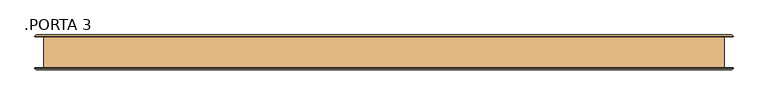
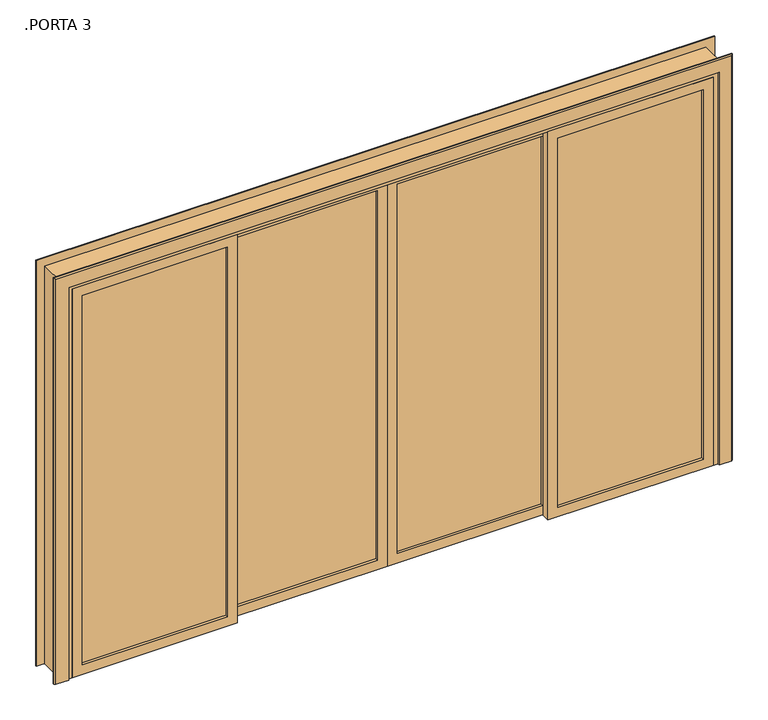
"""IFC4 building model written with IfcOpenShell, lengths in millimetres: door geometry, Porta envidraçada de correr quádrupla com revestimento : .PORTA 3."""

from ifc_helpers import new_model, si_unit, point, frame, frame_2d, origin, place, context, project, spatial, polyline, circle_curve, trimmed, segment, composite_curve, outline, extrude, faceted_brep, source, transform, mapped, element, save


def porta_3_39596a4f(model_context):
    return source(origin(), model_context, "Body", "SolidModel", [
        extrude(outline(composite_curve([segment(trimmed(circle_curve(frame_2d((990.0, 15.0)), 10.0), [point((1000.0, 15.0))], [point((990.0, 5.0))], False, "CARTESIAN"), True, "CONTINUOUS"), segment(polyline([(990.0, 5.0), (810.0, 5.0)]), True, "CONTINUOUS"), segment(trimmed(circle_curve(frame_2d((810.0, 15.0)), 10.0), [point((810.0, 5.0))], [point((800.0, 15.0))], False, "CARTESIAN"), True, "CONTINUOUS"), segment(polyline([(800.0, 15.0), (800.0, 35.0)]), True, "CONTINUOUS"), segment(trimmed(circle_curve(frame_2d((810.0, 35.0)), 10.0), [point((800.0, 35.0))], [point((810.0, 45.0))], False, "CARTESIAN"), True, "CONTINUOUS"), segment(polyline([(810.0, 45.0), (990.0, 45.0)]), True, "CONTINUOUS"), segment(trimmed(circle_curve(frame_2d((990.0, 35.0)), 10.0), [point((990.0, 45.0))], [point((1000.0, 35.0))], False, "CARTESIAN"), True, "CONTINUOUS"), segment(polyline([(1000.0, 35.0), (1000.0, 15.0)]), True, "CONTINUOUS")], self_intersect=False), holes=[composite_curve([segment(trimmed(circle_curve(frame_2d((985.0, 25.0)), 5.0), [point((985.0, 20.0))], [point((985.0, 30.0))], True, "CARTESIAN"), True, "CONTINUOUS"), segment(trimmed(circle_curve(frame_2d((985.0, 25.0)), 5.0), [point((985.0, 30.0))], [point((985.0, 20.0))], True, "CARTESIAN"), True, "CONTINUOUS")], self_intersect=False), composite_curve([segment(trimmed(circle_curve(frame_2d((815.0, 25.0)), 5.0), [point((815.0, 20.0))], [point((815.0, 30.0))], True, "CARTESIAN"), True, "CONTINUOUS"), segment(trimmed(circle_curve(frame_2d((815.0, 25.0)), 5.0), [point((815.0, 30.0))], [point((815.0, 20.0))], True, "CARTESIAN"), True, "CONTINUOUS")], self_intersect=False), composite_curve([segment(polyline([(960.0, 15.0), (960.0, 35.0)]), True, "CONTINUOUS"), segment(trimmed(circle_curve(frame_2d((955.0, 35.0)), 5.0), [point((960.0, 35.0))], [point((955.0, 40.0))], True, "CARTESIAN"), True, "CONTINUOUS"), segment(polyline([(955.0, 40.0), (845.0, 40.0)]), True, "CONTINUOUS"), segment(trimmed(circle_curve(frame_2d((845.0, 35.0)), 5.0), [point((845.0, 40.0))], [point((840.0, 35.0))], True, "CARTESIAN"), True, "CONTINUOUS"), segment(polyline([(840.0, 35.0), (840.0, 15.0)]), True, "CONTINUOUS"), segment(trimmed(circle_curve(frame_2d((845.0, 15.0)), 5.0), [point((840.0, 15.0))], [point((845.0, 10.0))], True, "CARTESIAN"), True, "CONTINUOUS"), segment(polyline([(845.0, 10.0), (955.0, 10.0)]), True, "CONTINUOUS"), segment(trimmed(circle_curve(frame_2d((955.0, 15.0)), 5.0), [point((955.0, 10.0))], [point((960.0, 15.0))], True, "CARTESIAN"), True, "CONTINUOUS")], self_intersect=False)]), frame((0.0, 10.0, 0.0), z_axis=(0.0, 1.0, 0.0), x_axis=(0.0, 0.0, 1.0)), (0.0, 0.0, 1.0), 3.0),
        extrude(outline(composite_curve([segment(trimmed(circle_curve(frame_2d((990.0, -35.0)), 10.0), [point((1000.0, -35.0))], [point((990.0, -45.0))], False, "CARTESIAN"), True, "CONTINUOUS"), segment(polyline([(990.0, -45.0), (810.0, -45.0)]), True, "CONTINUOUS"), segment(trimmed(circle_curve(frame_2d((810.0, -35.0)), 10.0), [point((810.0, -45.0))], [point((800.0, -35.0))], False, "CARTESIAN"), True, "CONTINUOUS"), segment(polyline([(800.0, -35.0), (800.0, -15.0)]), True, "CONTINUOUS"), segment(trimmed(circle_curve(frame_2d((810.0, -15.0)), 10.0), [point((800.0, -15.0))], [point((810.0, -5.0))], False, "CARTESIAN"), True, "CONTINUOUS"), segment(polyline([(810.0, -5.0), (990.0, -5.0)]), True, "CONTINUOUS"), segment(trimmed(circle_curve(frame_2d((990.0, -15.0)), 10.0), [point((990.0, -5.0))], [point((1000.0, -15.0))], False, "CARTESIAN"), True, "CONTINUOUS"), segment(polyline([(1000.0, -15.0), (1000.0, -35.0)]), True, "CONTINUOUS")], self_intersect=False), holes=[composite_curve([segment(trimmed(circle_curve(frame_2d((985.0, -25.0)), 5.0), [point((985.0, -30.0))], [point((985.0, -20.0))], True, "CARTESIAN"), True, "CONTINUOUS"), segment(trimmed(circle_curve(frame_2d((985.0, -25.0)), 5.0), [point((985.0, -20.0))], [point((985.0, -30.0))], True, "CARTESIAN"), True, "CONTINUOUS")], self_intersect=False), composite_curve([segment(trimmed(circle_curve(frame_2d((815.0, -25.0)), 5.0), [point((815.0, -30.0))], [point((815.0, -20.0))], True, "CARTESIAN"), True, "CONTINUOUS"), segment(trimmed(circle_curve(frame_2d((815.0, -25.0)), 5.0), [point((815.0, -20.0))], [point((815.0, -30.0))], True, "CARTESIAN"), True, "CONTINUOUS")], self_intersect=False), composite_curve([segment(polyline([(960.0, -35.0), (960.0, -15.0)]), True, "CONTINUOUS"), segment(trimmed(circle_curve(frame_2d((955.0, -15.0)), 5.0), [point((960.0, -15.0))], [point((955.0, -10.0))], True, "CARTESIAN"), True, "CONTINUOUS"), segment(polyline([(955.0, -10.0), (845.0, -10.0)]), True, "CONTINUOUS"), segment(trimmed(circle_curve(frame_2d((845.0, -15.0)), 5.0), [point((845.0, -10.0))], [point((840.0, -15.0))], True, "CARTESIAN"), True, "CONTINUOUS"), segment(polyline([(840.0, -15.0), (840.0, -35.0)]), True, "CONTINUOUS"), segment(trimmed(circle_curve(frame_2d((845.0, -35.0)), 5.0), [point((840.0, -35.0))], [point((845.0, -40.0))], True, "CARTESIAN"), True, "CONTINUOUS"), segment(polyline([(845.0, -40.0), (955.0, -40.0)]), True, "CONTINUOUS"), segment(trimmed(circle_curve(frame_2d((955.0, -35.0)), 5.0), [point((955.0, -40.0))], [point((960.0, -35.0))], True, "CARTESIAN"), True, "CONTINUOUS")], self_intersect=False)]), frame((0.0, 10.0, 0.0), z_axis=(0.0, 1.0, 0.0), x_axis=(0.0, 0.0, 1.0)), (0.0, 0.0, 1.0), 3.0),
        extrude(outline(polyline([(2050.0, -825.0), (0.0, -825.0), (0.0, 0.0), (2050.0, 0.0), (2050.0, -825.0)]), holes=[polyline([(2000.0, -50.0), (50.0, -50.0), (50.0, -775.0), (2000.0, -775.0), (2000.0, -50.0)])]), frame((0.0, -30.0, 0.0), z_axis=(0.0, 1.0, 0.0), x_axis=(0.0, 0.0, 1.0)), (0.0, 0.0, 1.0), 40.0),
        extrude(outline(polyline([(2050.0, 775.0), (0.0, 775.0), (0.0, 1600.0), (2050.0, 1600.0), (2050.0, 775.0)]), holes=[polyline([(2000.0, 1550.0), (50.0, 1550.0), (50.0, 825.0), (2000.0, 825.0), (2000.0, 1550.0)])]), frame((0.0, -75.0, 0.0), z_axis=(0.0, 1.0, 0.0), x_axis=(0.0, 0.0, 1.0)), (0.0, 0.0, 1.0), 40.0),
        extrude(outline(polyline([(2050.0, 0.0), (0.0, 0.0), (0.0, 825.0), (2050.0, 825.0), (2050.0, 0.0)]), holes=[polyline([(2000.0, 775.0), (50.0, 775.0), (50.0, 50.0), (2000.0, 50.0), (2000.0, 775.0)])]), frame((0.0, -30.0, 0.0), z_axis=(0.0, 1.0, 0.0), x_axis=(0.0, 0.0, 1.0)), (0.0, 0.0, 1.0), 40.0),
        extrude(outline(polyline([(2050.0, -1600.0), (0.0, -1600.0), (0.0, -775.0), (2050.0, -775.0), (2050.0, -1600.0)]), holes=[polyline([(2000.0, -825.0), (50.0, -825.0), (50.0, -1550.0), (2000.0, -1550.0), (2000.0, -825.0)])]), frame((0.0, -75.0, 0.0), z_axis=(0.0, 1.0, 0.0), x_axis=(0.0, 0.0, 1.0)), (0.0, 0.0, 1.0), 40.0),
        extrude(outline(polyline([(0.0, 1600.0), (0.0, 1650.0), (2100.0, 1650.0), (2100.0, -1650.0), (0.0, -1650.0), (0.0, -1600.0), (2050.0, -1600.0), (2050.0, 1600.0), (0.0, 1600.0)])), frame((0.0, -75.0, 0.0), z_axis=(0.0, 1.0, 0.0), x_axis=(0.0, 0.0, 1.0)), (0.0, 0.0, 1.0), 150.0),
        extrude(outline(polyline([(775.0, -3.0), (775.0, -17.0), (50.0, -17.0), (50.0, -3.0), (775.0, -3.0)])), frame((0.0, 0.0, 50.0), z_axis=(0.0, 0.0, 1.0), x_axis=(1.0, 0.0, 0.0)), (0.0, 0.0, 1.0), 1950.0),
        extrude(outline(polyline([(1550.0, -48.0), (1550.0, -62.0), (825.0, -62.0), (825.0, -48.0), (1550.0, -48.0)])), frame((0.0, 0.0, 50.0), z_axis=(0.0, 0.0, 1.0), x_axis=(1.0, 0.0, 0.0)), (0.0, 0.0, 1.0), 1950.0),
        extrude(outline(polyline([(-825.0, -48.0), (-825.0, -62.0), (-1550.0, -62.0), (-1550.0, -48.0), (-825.0, -48.0)])), frame((0.0, 0.0, 50.0), z_axis=(0.0, 0.0, 1.0), x_axis=(1.0, 0.0, 0.0)), (0.0, 0.0, 1.0), 1950.0),
        extrude(outline(polyline([(-50.0, -3.0), (-50.0, -17.0), (-775.0, -17.0), (-775.0, -3.0), (-50.0, -3.0)])), frame((0.0, 0.0, 50.0), z_axis=(0.0, 0.0, 1.0), x_axis=(1.0, 0.0, 0.0)), (0.0, 0.0, 1.0), 1950.0),
        extrude(outline(polyline([(-825.0, -48.0), (-825.0, -62.0), (-1550.0, -62.0), (-1550.0, -48.0), (-825.0, -48.0)])), frame((0.0, 0.0, 50.0), z_axis=(0.0, 0.0, 1.0), x_axis=(1.0, 0.0, 0.0)), (0.0, 0.0, 1.0), 1950.0),
        extrude(outline(polyline([(-50.0, -3.0), (-50.0, -17.0), (-775.0, -17.0), (-775.0, -3.0), (-50.0, -3.0)])), frame((0.0, 0.0, 50.0), z_axis=(0.0, 0.0, 1.0), x_axis=(1.0, 0.0, 0.0)), (0.0, 0.0, 1.0), 1950.0),
        extrude(outline(polyline([(825.0, -48.0), (1550.0, -48.0), (1550.0, -62.0), (825.0, -62.0), (825.0, -48.0)])), frame((0.0, 0.0, 50.0), z_axis=(0.0, 0.0, 1.0), x_axis=(1.0, 0.0, 0.0)), (0.0, 0.0, 1.0), 1950.0),
        extrude(outline(polyline([(50.0, -3.0), (775.0, -3.0), (775.0, -17.0), (50.0, -17.0), (50.0, -3.0)])), frame((0.0, 0.0, 50.0), z_axis=(0.0, 0.0, 1.0), x_axis=(1.0, 0.0, 0.0)), (0.0, 0.0, 1.0), 1950.0),
        faceted_brep([(1693.0, 79.0, 0.0), (1693.0, 75.0, 0.0), (1623.0, 75.0, 0.0), (1623.0, 85.0, 0.0), (1687.0, 85.0, 0.0), (1693.0, 79.0, 2143.0), (1693.0, 75.0, 2143.0), (-1693.0, 75.0, 2143.0), (-1693.0, 75.0, 0.0), (-1623.0, 75.0, 0.0), (-1623.0, 75.0, 2073.0), (1623.0, 75.0, 2073.0), (1623.0, 85.0, 2073.0), (-1623.0, 85.0, 2073.0), (-1623.0, 85.0, 0.0), (-1687.0, 85.0, 0.0), (-1687.0, 85.0, 2137.0), (1687.0, 85.0, 2137.0), (-1693.0, 79.0, 0.0), (-1693.0, 79.0, 2143.0)], [[[0, 1, 2, 3, 4]], [[1, 0, 5, 6]], [[2, 1, 6, 7, 8, 9, 10, 11]], [[3, 2, 11, 12]], [[4, 3, 12, 13, 14, 15, 16, 17]], [[0, 4, 17, 5]], [[13, 10, 9, 14]], [[18, 15, 14, 9, 8]], [[19, 16, 15, 18]], [[7, 19, 18, 8]], [[5, 17, 16, 19]], [[12, 11, 10, 13]], [[6, 5, 19, 7]]]),
        faceted_brep([(1693.0, -79.0, 0.0), (1687.0, -85.0, 0.0), (1623.0, -85.0, 0.0), (1623.0, -75.0, 0.0), (1693.0, -75.0, 0.0), (1693.0, -79.0, 2143.0), (1687.0, -85.0, 2137.0), (-1687.0, -85.0, 2137.0), (-1687.0, -85.0, 0.0), (-1623.0, -85.0, 0.0), (-1623.0, -85.0, 2073.0), (1623.0, -85.0, 2073.0), (1623.0, -75.0, 2073.0), (-1623.0, -75.0, 2073.0), (-1623.0, -75.0, 0.0), (-1693.0, -75.0, 0.0), (-1693.0, -75.0, 2143.0), (1693.0, -75.0, 2143.0), (-1693.0, -79.0, 2143.0), (-1693.0, -79.0, 0.0)], [[[0, 1, 2, 3, 4]], [[1, 0, 5, 6]], [[2, 1, 6, 7, 8, 9, 10, 11]], [[3, 2, 11, 12]], [[4, 3, 12, 13, 14, 15, 16, 17]], [[0, 4, 17, 5]], [[7, 18, 19, 8]], [[19, 15, 14, 9, 8]], [[13, 10, 9, 14]], [[18, 16, 15, 19]], [[6, 5, 18, 7]], [[12, 11, 10, 13]], [[5, 17, 16, 18]]]),
    ])


if __name__ == "__main__":
    model = new_model("IFC4")
    model_context = context("Model", 3, world=origin())
    ifc_project = project(units=[si_unit("LENGTHUNIT", "METRE", prefix="MILLI")], contexts=[model_context])
    site = spatial("IfcSite", under=ifc_project)
    building = spatial("IfcBuilding", under=site)
    placement = place(None, origin())
    porta_3_shape = porta_3_39596a4f(model_context)
    element("IfcDoor", 1, ObjectType="Porta envidraçada de correr quádrupla com revestimento : .PORTA 3", at=placement, inside=building, context=model_context, shape_type="MappedRepresentation", body=[
        mapped(porta_3_shape, transform((0.0, 0.0, 0.0), x_axis=(1.0, 0.0, 0.0), y_axis=(0.0, 1.0, 0.0), z_axis=(0.0, 0.0, 1.0))),
    ])
    save(model, "model.ifc")
